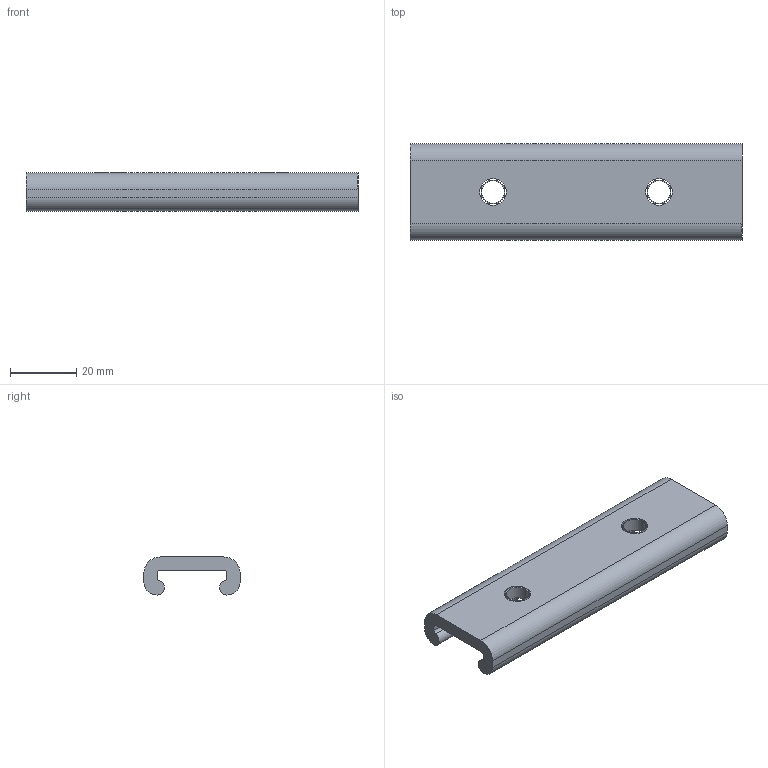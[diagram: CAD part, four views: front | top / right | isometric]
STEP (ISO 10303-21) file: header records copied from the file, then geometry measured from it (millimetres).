
FILE_DESCRIPTION (( 'STEP AP203' ), '1' );
FILE_NAME ('FGRC-100.STEP', '2013-08-16T07:37:48', ( 'user' ), ( '' ), 'SwSTEP 2.0', 'SolidWorks 2009', '' );
FILE_SCHEMA (( 'CONFIG_CONTROL_DESIGN' ));
Length unit declared in the file: millimetre
Products named in the file (1): FGRC-100
Bounding box: 100 x 29 x 11.5 mm (x, y, z)
Volume: 17061.6 mm3; surface area: 9904.7 mm2
Topology: 3 solids, 3 shells, 34 faces, 84 edges, 56 vertices
Faces by surface type: cylinder 22, plane 12
Entity records: 1121 total; most frequent: DIRECTION 198, CARTESIAN_POINT 175, ORIENTED_EDGE 168, EDGE_CURVE 84, AXIS2_PLACEMENT_3D 79, VERTEX_POINT 56, CIRCLE 44, EDGE_LOOP 42
